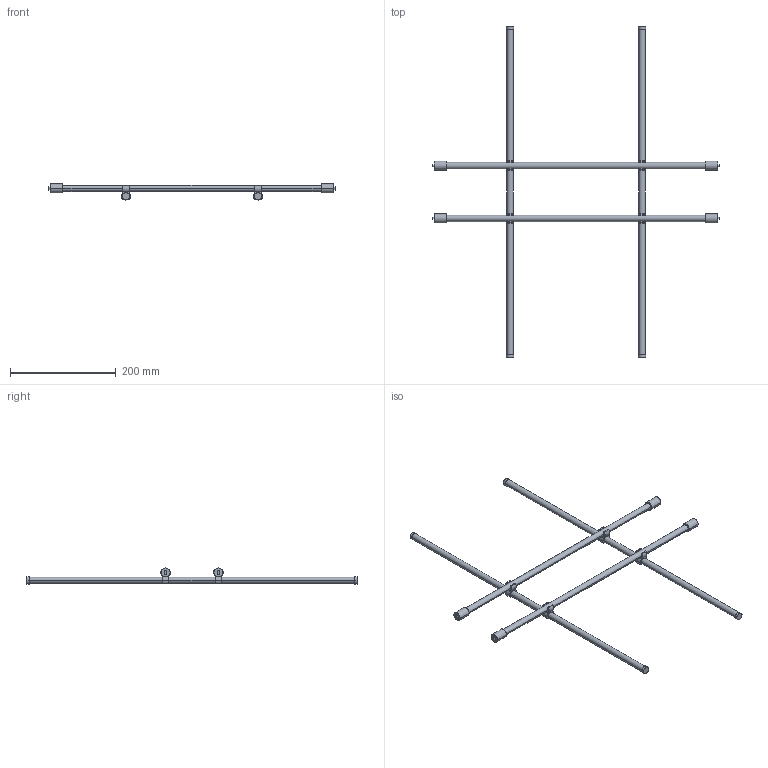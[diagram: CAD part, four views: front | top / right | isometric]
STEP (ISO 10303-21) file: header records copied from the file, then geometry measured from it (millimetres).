
FILE_DESCRIPTION (( 'STEP AP214' ), '1' );
FILE_NAME ('Magic-Classic_NL-660-KAB 600.step', '2010-09-16T12:49:27', ( 'grass' ), ( '' ), 'SwSTEP 2.0', 'SolidWorks 2010', '' );
FILE_SCHEMA (( 'AUTOMOTIVE_DESIGN' ));
Length unit declared in the file: millimetre
Products named in the file (1): Magic-Classic_NL-660-KAB 600
Bounding box: 543 x 625 x 30.45 mm (x, y, z)
Volume: 283393.1 mm3; surface area: 94147 mm2
Topology: 1 solids, 1 shells, 140 faces, 384 edges, 256 vertices
Faces by surface type: plane 76, cylinder 64
Entity records: 4546 total; most frequent: DIRECTION 826, CARTESIAN_POINT 781, ORIENTED_EDGE 768, EDGE_CURVE 384, AXIS2_PLACEMENT_3D 301, VERTEX_POINT 256, LINE 224, VECTOR 224
